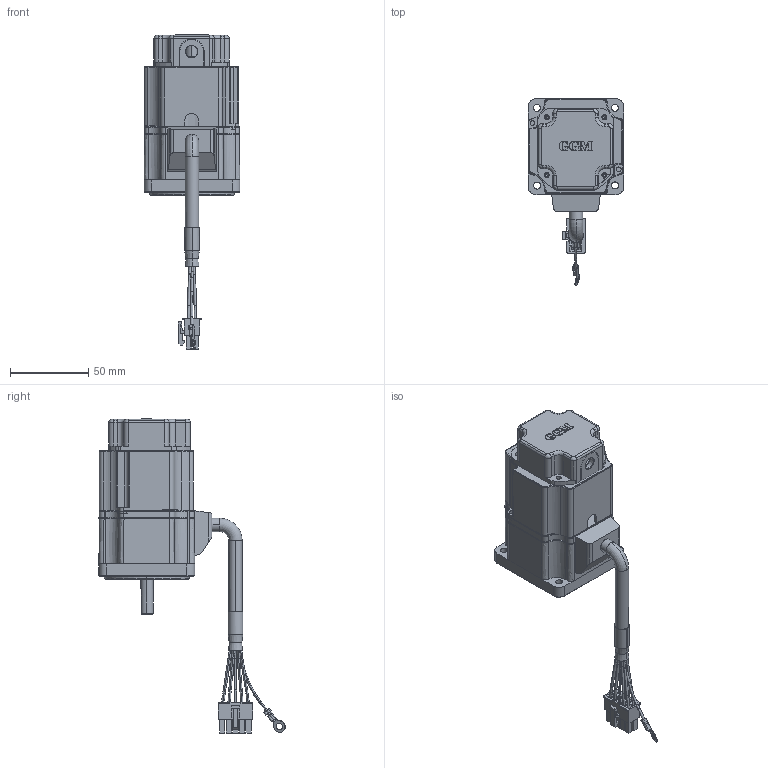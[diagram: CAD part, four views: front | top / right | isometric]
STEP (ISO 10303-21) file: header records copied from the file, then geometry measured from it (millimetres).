
FILE_DESCRIPTION (( 'STEP AP214' ), '1' );
FILE_NAME ('B Series 30w_brake_encoder_S.STEP', '2023-08-16T06:41:56', ( '' ), ( '' ), 'SwSTEP 2.0', 'SolidWorks 2022', '' );
FILE_SCHEMA (( 'AUTOMOTIVE_DESIGN' ));
Length unit declared in the file: millimetre
Products named in the file (7): ENCODER COVER ASS''Y; B Series 30w_brake_encoder_S; K6BS20N﹤.stp; BRAKE COVER 譆謙.stp; LEAD BUSH.stp; B Series 30w_brake_S.stp; ENCODER COVER
Assembly tree (6 placements, depth 3):
  B Series 30w_brake_encoder_S
    B Series 30w_brake_S.stp
      K6BS20N﹤.stp
      BRAKE COVER 譆謙.stp
    ENCODER COVER ASS''Y
      LEAD BUSH.stp
      ENCODER COVER
Bounding box: 61.1 x 118.7 x 200.15 mm (x, y, z)
Volume: 198527.7 mm3; surface area: 72076.8 mm2
Topology: 13 solids, 13 shells, 1570 faces, 4194 edges, 2658 vertices
Faces by surface type: plane 788, cylinder 461, bspline 177, torus 82, cone 41, sphere 21
Entity records: 59137 total; most frequent: CARTESIAN_POINT 21909, ORIENTED_EDGE 8360, DIRECTION 5634, EDGE_CURVE 4180, VERTEX_POINT 2657, AXIS2_PLACEMENT_3D 2239, B_SPLINE_CURVE_WITH_KNOTS 2083, EDGE_LOOP 1675
